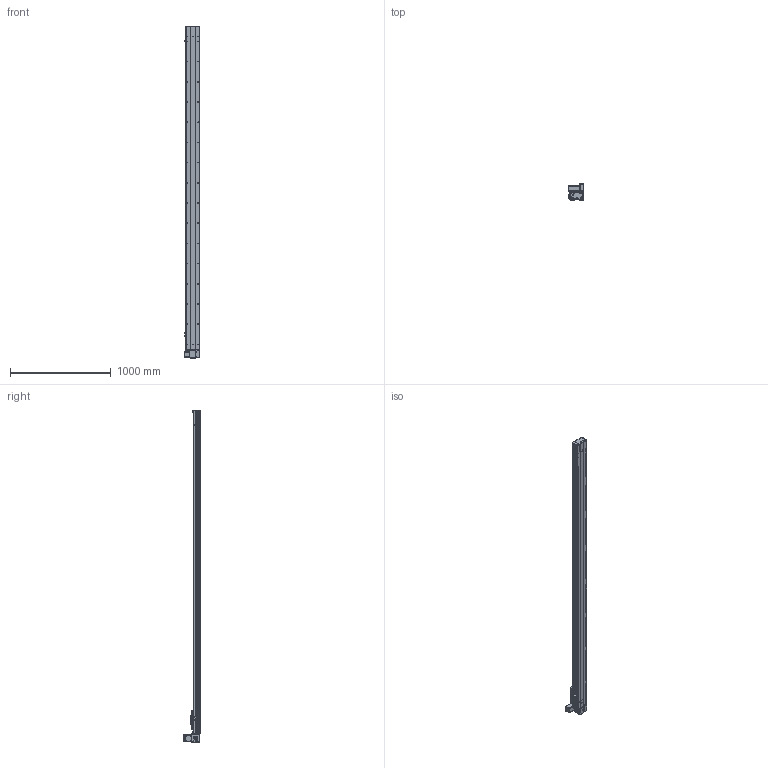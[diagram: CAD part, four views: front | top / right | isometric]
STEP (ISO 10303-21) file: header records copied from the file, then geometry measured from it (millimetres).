
FILE_DESCRIPTION (( 'STEP AP203' ), '1' );
FILE_NAME ('Y135CB-D90-S2900-UL-P400W.STEP', '2020-02-18T08:14:55', ( '微软用户' ), ( '微软中国' ), 'SwSTEP 2.0', 'SolidWorks 2017', '' );
FILE_SCHEMA (( 'CONFIG_CONTROL_DESIGN' ));
Length unit declared in the file: millimetre
Products named in the file (18): C-雄赽釱--; 0B-萇儂楊擘啣; Y10B-耜蚾蟀諉啣----; san松下电机400不带刹车----; 00B-俋欶BM--; 5CB --掛极耜裔啣-; Y10B--々湍喘謫眊--666; C-詩湍揤踡え-陔; Y135CB-耜裔; Y135CB-D90-S2900-UL-P400W; 135CB--詩湍-CE; 135CB---遴掛极.-; Y100-135俋离換覜ん--; 35CB---喘謫眊楊擘啣; Y135C-陔俋离換覜結え-; 0B-埴倛裔啣; 5C--俋欶; 0B-源倛裔啣
Assembly tree (21 placements, depth 2):
  Y135CB-D90-S2900-UL-P400W
    Y135CB-耜裔
    135CB---遴掛极.-
    35CB---喘謫眊楊擘啣
    0B-埴倛裔啣
    0B-源倛裔啣
    0B-萇儂楊擘啣
    san松下电机400不带刹车----
    5CB --掛极耜裔啣-  x2
    C-詩湍揤踡え-陔  x2
    135CB--詩湍-CE
    Y100-135俋离換覜ん--  x3
    Y135C-陔俋离換覜結え-
    5C--俋欶
    C-雄赽釱--
    Y10B-耜蚾蟀諉啣----
    00B-俋欶BM--
    Y10B--々湍喘謫眊--666
Bounding box: 157 x 158.7 x 3288 mm (x, y, z)
Volume: 9320470.2 mm3; surface area: 3697064.1 mm2
Topology: 21 solids, 21 shells, 985 faces, 2707 edges, 1794 vertices
Faces by surface type: cylinder 513, plane 456, cone 16
Entity records: 31369 total; most frequent: CARTESIAN_POINT 5252, DIRECTION 5215, ORIENTED_EDGE 4890, EDGE_CURVE 2445, AXIS2_PLACEMENT_3D 1917, VERTEX_POINT 1622, VECTOR 1381, LINE 1381
